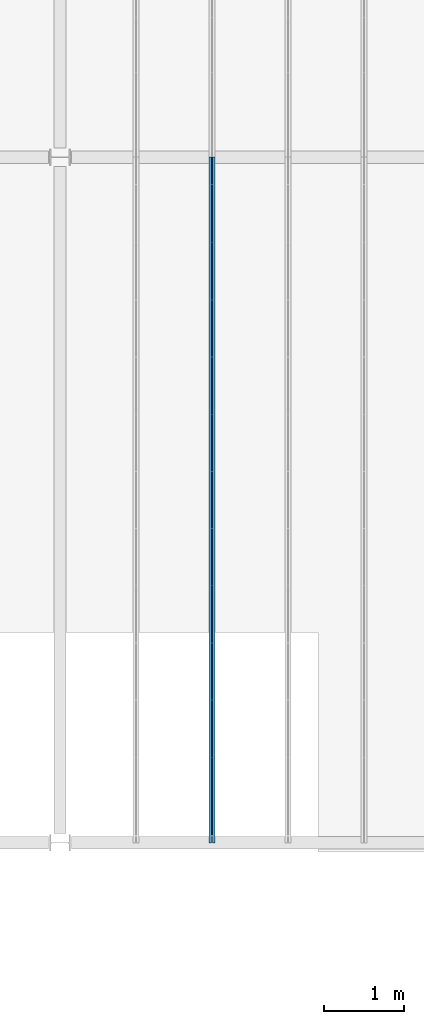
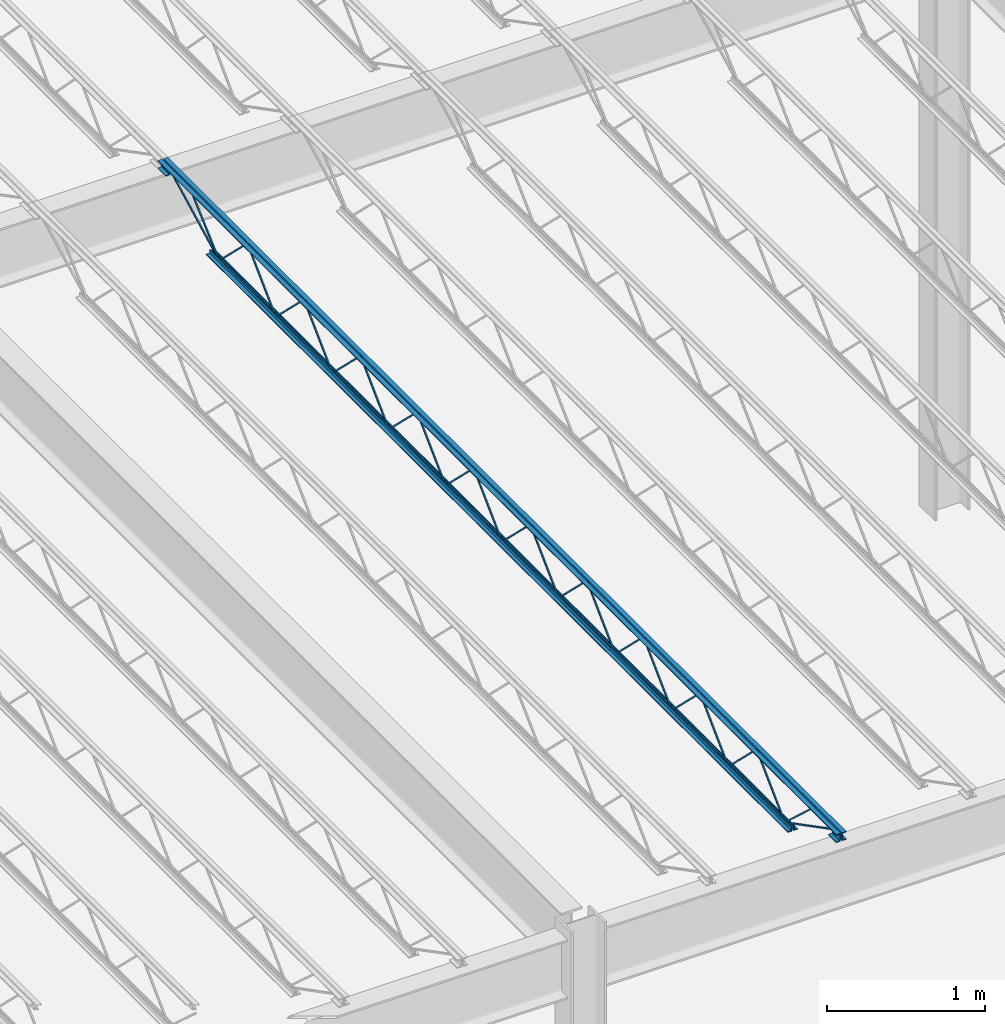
# One storey, part 58 of 119: 1 beam.
"""IFC2X3 building model written with IfcOpenShell, lengths in metres."""

from ifc_helpers import new_model, entity, si_unit, converted_unit, frame, origin, place, context, project, spatial, face_set, surface_model, element, save


model = new_model("IFC2X3")

# Units and contexts
model_context = context("Model", 3, precision=1e-09, world=origin())
plan_context = context("Plan", 3, precision=1e-09, world=origin())
ifc_project = project(units=[si_unit("LENGTHUNIT", "METRE"), si_unit("AREAUNIT", "SQUARE_METRE"), si_unit("VOLUMEUNIT", "CUBIC_METRE"), converted_unit("PLANEANGLEUNIT", "DEGREE", entity("IfcRatioMeasure", 0.01745329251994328), si_unit("PLANEANGLEUNIT", "RADIAN"), dimensions=[0, 0, 0, 0, 0, 0, 0]), si_unit("TIMEUNIT", "SECOND")], contexts=[model_context, plan_context])

# Site, building, storey
site_placement = place(None, origin())
site = spatial("IfcSite", under=ifc_project, at=site_placement, Name="Default", CompositionType="ELEMENT")
building_placement = place(site_placement, origin())
building = spatial("IfcBuilding", under=site, at=building_placement, CompositionType="ELEMENT")
storey_placement = place(building_placement, frame((0.0, 0.0, 4.570000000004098)))
storey = spatial("IfcBuildingStorey", under=building, at=storey_placement, Name="Second Floor", CompositionType="ELEMENT", Elevation=4.570000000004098)

# Beam
beam_placement = place(storey_placement, frame((-13.01673124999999, 10.03999999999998, 4.323999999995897), z_axis=(0.0, 0.0, 1.0), x_axis=(-1.0, 0.0, 0.0)))
element("IfcBeam", 1, at=beam_placement, inside=storey, Name="M_K-Series Bar Joist-Rod Web:14K1:14K1", ObjectType="M_K-Series Bar Joist-Rod Web:14K1", context=model_context, shape_type="SurfaceModel", body=[
    surface_model("IfcFaceBasedSurfaceModel", [(-0.03200000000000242, -2.141200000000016, 0.01110000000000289), (-0.04150000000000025, -2.141200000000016, 0.01110000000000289), (-0.04150000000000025, -2.141200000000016, 0.001600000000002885), (-0.03200000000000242, -2.141200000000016, 0.001600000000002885), (-0.04150000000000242, -2.139961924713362, 0.01110000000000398), (-0.03200000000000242, -2.139961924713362, 0.01110000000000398), (-0.04150000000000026, -2.136088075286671, 0.001600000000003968), (-0.04150000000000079, -1.785138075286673, 0.3449000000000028), (-0.04150000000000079, -1.782661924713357, 0.3449000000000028), (-0.04150000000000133, -1.431711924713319, 0.001600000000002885), (-0.04150000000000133, -1.426600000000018, 0.001600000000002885), (-0.04149999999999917, -1.426600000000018, 0.01110000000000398), (-0.04150000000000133, -1.427838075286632, 0.01110000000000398), (-0.0415000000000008, -1.77878807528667, 0.3544000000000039), (-0.04150000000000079, -1.78901192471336, 0.3544000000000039), (-0.03200000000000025, -2.136088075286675, 0.001600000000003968), (-0.03200000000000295, -1.785138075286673, 0.3449000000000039), (-0.03200000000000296, -1.782661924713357, 0.3449000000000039), (-0.03200000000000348, -1.431711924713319, 0.001600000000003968), (-0.0320000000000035, -1.426600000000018, 0.001600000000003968), (-0.0320000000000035, -1.426600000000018, 0.01110000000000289), (-0.03200000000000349, -1.427838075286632, 0.01110000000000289), (-0.03200000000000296, -1.77878807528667, 0.3544000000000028), (-0.03200000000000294, -1.78901192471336, 0.3544000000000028), (-0.03200000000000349, -2.855800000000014, 0.01110000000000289), (-0.04150000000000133, -2.855800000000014, 0.01110000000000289), (-0.04150000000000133, -2.855800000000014, 0.001600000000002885), (-0.03200000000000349, -2.855800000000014, 0.001600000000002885), (-0.0415000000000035, -2.854561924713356, 0.01110000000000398), (-0.0320000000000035, -2.854561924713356, 0.01110000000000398), (-0.04150000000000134, -2.850688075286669, 0.001600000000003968), (-0.04150000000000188, -2.499738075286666, 0.3449000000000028), (-0.04150000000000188, -2.497261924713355, 0.3449000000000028), (-0.04150000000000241, -2.146311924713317, 0.001600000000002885), (-0.04150000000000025, -2.141200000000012, 0.001600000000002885), (-0.04150000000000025, -2.141200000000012, 0.01110000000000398), (-0.04150000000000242, -2.14243807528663, 0.01110000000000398), (-0.04150000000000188, -2.493388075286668, 0.3544000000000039), (-0.04150000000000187, -2.503611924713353, 0.3544000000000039), (-0.03200000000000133, -2.850688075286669, 0.001600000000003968), (-0.03200000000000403, -2.499738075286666, 0.3449000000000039), (-0.03200000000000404, -2.497261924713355, 0.3449000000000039), (-0.03200000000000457, -2.146311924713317, 0.001600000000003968), (-0.03200000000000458, -2.141200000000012, 0.001600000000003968), (-0.03200000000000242, -2.141200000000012, 0.01110000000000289), (-0.03200000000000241, -2.14243807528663, 0.01110000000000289), (-0.03200000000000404, -2.493388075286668, 0.3544000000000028), (-0.03200000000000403, -2.503611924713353, 0.3544000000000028), (-0.03200000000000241, -3.570400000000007, 0.01110000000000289), (-0.04150000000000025, -3.570400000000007, 0.01110000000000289), (-0.04150000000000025, -3.570400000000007, 0.001600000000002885), (-0.03200000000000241, -3.570400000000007, 0.001600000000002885), (-0.04150000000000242, -3.569161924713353, 0.01110000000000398), (-0.03200000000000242, -3.569161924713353, 0.01110000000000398), (-0.04150000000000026, -3.565288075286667, 0.001600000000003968), (-0.04150000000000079, -3.214338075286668, 0.3449000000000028), (-0.04150000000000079, -3.211861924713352, 0.3449000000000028), (-0.04150000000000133, -2.860911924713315, 0.001600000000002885), (-0.04150000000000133, -2.855800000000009, 0.001600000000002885), (-0.04149999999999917, -2.855800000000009, 0.01110000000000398), (-0.04150000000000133, -2.857038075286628, 0.01110000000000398), (-0.0415000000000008, -3.207988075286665, 0.3544000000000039), (-0.04150000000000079, -3.218211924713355, 0.3544000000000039), (-0.03200000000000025, -3.565288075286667, 0.001600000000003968), (-0.03200000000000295, -3.214338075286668, 0.3449000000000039), (-0.03200000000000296, -3.211861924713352, 0.3449000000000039), (-0.03200000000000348, -2.860911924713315, 0.001600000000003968), (-0.03200000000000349, -2.855800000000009, 0.001600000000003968), (-0.03200000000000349, -2.855800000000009, 0.01110000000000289), (-0.03200000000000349, -2.857038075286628, 0.01110000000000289), (-0.03200000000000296, -3.207988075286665, 0.3544000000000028), (-0.03200000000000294, -3.218211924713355, 0.3544000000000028), (-0.03200000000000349, -4.285000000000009, 0.01110000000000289), (-0.04150000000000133, -4.285000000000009, 0.01110000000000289), (-0.04150000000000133, -4.285000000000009, 0.001600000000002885), (-0.03200000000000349, -4.285000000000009, 0.001600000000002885), (-0.0415000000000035, -4.283761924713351, 0.01110000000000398), (-0.0320000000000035, -4.283761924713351, 0.01110000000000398), (-0.04150000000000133, -4.279888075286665, 0.001600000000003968), (-0.04150000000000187, -3.928938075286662, 0.3449000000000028), (-0.04150000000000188, -3.92646192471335, 0.3449000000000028), (-0.04150000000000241, -3.575511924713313, 0.001600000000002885), (-0.04150000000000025, -3.570400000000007, 0.01110000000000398), (-0.04150000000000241, -3.571638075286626, 0.01110000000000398), (-0.04150000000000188, -3.922588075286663, 0.3544000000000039), (-0.04150000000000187, -3.932811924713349, 0.3544000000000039), (-0.03200000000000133, -4.279888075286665, 0.001600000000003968), (-0.03200000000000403, -3.928938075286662, 0.3449000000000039), (-0.03200000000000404, -3.92646192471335, 0.3449000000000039), (-0.03200000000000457, -3.575511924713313, 0.001600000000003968), (-0.03200000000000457, -3.570400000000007, 0.001600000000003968), (-0.03200000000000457, -3.571638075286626, 0.01110000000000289), (-0.03200000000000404, -3.922588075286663, 0.3544000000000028), (-0.03200000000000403, -3.932811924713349, 0.3544000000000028), (-0.03200000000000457, -4.999600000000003, 0.01110000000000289), (-0.04150000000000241, -4.999600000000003, 0.01110000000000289), (-0.04150000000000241, -4.999600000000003, 0.001600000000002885), (-0.03200000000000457, -4.999600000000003, 0.001600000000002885), (-0.04150000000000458, -4.998361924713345, 0.01110000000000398), (-0.03200000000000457, -4.998361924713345, 0.01110000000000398), (-0.04150000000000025, -4.994488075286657, 0.001600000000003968), (-0.04150000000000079, -4.643538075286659, 0.3449000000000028), (-0.04150000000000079, -4.641061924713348, 0.3449000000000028), (-0.04150000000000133, -4.290111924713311, 0.001600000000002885), (-0.04150000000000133, -4.285000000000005, 0.001600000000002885), (-0.04150000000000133, -4.285, 0.01110000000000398), (-0.04150000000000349, -4.286238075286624, 0.01110000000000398), (-0.04150000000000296, -4.637188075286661, 0.3544000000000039), (-0.04150000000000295, -4.647411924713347, 0.3544000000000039), (-0.03200000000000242, -4.994488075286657, 0.001600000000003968), (-0.03200000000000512, -4.643538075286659, 0.3449000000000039), (-0.03200000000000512, -4.641061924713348, 0.3449000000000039), (-0.03200000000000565, -4.290111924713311, 0.001600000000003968), (-0.03200000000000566, -4.285, 0.001600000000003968), (-0.03200000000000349, -4.285000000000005, 0.01110000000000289), (-0.03200000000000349, -4.286238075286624, 0.01110000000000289), (-0.03200000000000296, -4.637188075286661, 0.3544000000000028), (-0.03200000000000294, -4.647411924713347, 0.3544000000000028), (-0.03200000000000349, -5.714200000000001, 0.01110000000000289), (-0.04150000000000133, -5.714200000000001, 0.01110000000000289), (-0.04150000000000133, -5.714200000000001, 0.001600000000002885), (-0.03200000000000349, -5.714200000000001, 0.001600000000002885), (-0.0415000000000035, -5.712961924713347, 0.01110000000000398), (-0.03200000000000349, -5.712961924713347, 0.01110000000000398), (-0.04150000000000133, -5.70908807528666, 0.001600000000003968), (-0.04150000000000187, -5.358138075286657, 0.3449000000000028), (-0.04150000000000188, -5.355661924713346, 0.3449000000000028), (-0.04150000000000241, -5.004711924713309, 0.001600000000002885), (-0.04150000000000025, -4.999600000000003, 0.01110000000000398), (-0.04150000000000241, -5.000838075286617, 0.01110000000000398), (-0.04150000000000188, -5.351788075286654, 0.3544000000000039), (-0.04150000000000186, -5.362011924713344, 0.3544000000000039), (-0.03200000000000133, -5.70908807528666, 0.001600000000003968), (-0.03200000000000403, -5.358138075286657, 0.3449000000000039), (-0.03200000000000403, -5.355661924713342, 0.3449000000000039), (-0.03200000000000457, -5.004711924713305, 0.001600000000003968), (-0.03200000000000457, -4.999600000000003, 0.001600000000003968), (-0.03200000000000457, -5.000838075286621, 0.01110000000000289), (-0.03200000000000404, -5.351788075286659, 0.3544000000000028), (-0.03200000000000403, -5.362011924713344, 0.3544000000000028), (-0.03200000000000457, -6.428799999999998, 0.01110000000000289), (-0.04150000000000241, -6.428799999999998, 0.01110000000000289), (-0.04150000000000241, -6.428799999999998, 0.001600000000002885), (-0.03200000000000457, -6.428799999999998, 0.001600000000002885), (-0.04150000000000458, -6.42756192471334, 0.01110000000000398), (-0.03200000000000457, -6.42756192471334, 0.01110000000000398), (-0.04150000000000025, -6.423688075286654, 0.001600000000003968), (-0.04150000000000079, -6.072738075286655, 0.3449000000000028), (-0.04150000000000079, -6.070261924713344, 0.3449000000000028), (-0.04150000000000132, -5.719311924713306, 0.001600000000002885), (-0.04150000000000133, -5.714199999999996, 0.001600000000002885), (-0.04150000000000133, -5.714199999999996, 0.01110000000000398), (-0.04150000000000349, -5.715438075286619, 0.01110000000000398), (-0.04150000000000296, -6.066388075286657, 0.3544000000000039), (-0.04150000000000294, -6.076611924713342, 0.3544000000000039), (-0.03200000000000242, -6.423688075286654, 0.001600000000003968), (-0.03200000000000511, -6.072738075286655, 0.3449000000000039), (-0.03200000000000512, -6.070261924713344, 0.3449000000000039), (-0.03200000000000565, -5.719311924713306, 0.001600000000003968), (-0.03200000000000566, -5.714199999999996, 0.001600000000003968), (-0.03200000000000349, -5.714199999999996, 0.01110000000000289), (-0.03200000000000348, -5.715438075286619, 0.01110000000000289), (-0.03200000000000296, -6.066388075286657, 0.3544000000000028), (-0.03200000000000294, -6.076611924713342, 0.3544000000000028), (-0.03200000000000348, -7.143399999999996, 0.01110000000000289), (-0.04150000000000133, -7.143399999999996, 0.01110000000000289), (-0.04150000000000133, -7.143399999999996, 0.001600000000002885), (-0.03200000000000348, -7.143399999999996, 0.001600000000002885), (-0.04150000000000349, -7.142161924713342, 0.01110000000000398), (-0.03200000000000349, -7.142161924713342, 0.01110000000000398), (-0.04150000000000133, -7.138288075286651, 0.001600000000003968), (-0.04150000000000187, -6.787338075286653, 0.3449000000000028), (-0.04150000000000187, -6.784861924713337, 0.3449000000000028), (-0.0415000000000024, -6.4339119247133, 0.001600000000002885), (-0.04150000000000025, -6.428799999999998, 0.01110000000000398), (-0.04150000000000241, -6.430038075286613, 0.01110000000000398), (-0.04150000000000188, -6.780988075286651, 0.3544000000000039), (-0.04150000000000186, -6.79121192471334, 0.3544000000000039), (-0.03200000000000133, -7.138288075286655, 0.001600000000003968), (-0.03200000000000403, -6.787338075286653, 0.3449000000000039), (-0.03200000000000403, -6.784861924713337, 0.3449000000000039), (-0.03200000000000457, -6.4339119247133, 0.001600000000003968), (-0.03200000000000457, -6.428799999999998, 0.001600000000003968), (-0.03200000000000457, -6.430038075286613, 0.01110000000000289), (-0.03200000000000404, -6.780988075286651, 0.3544000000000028), (-0.03200000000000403, -6.79121192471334, 0.3544000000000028), (-0.03200000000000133, -1.426600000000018, 0.01109999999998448), (-0.04149999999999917, -1.426600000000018, 0.01109999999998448), (-0.04149999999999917, -1.426600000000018, 0.001599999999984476), (-0.03200000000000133, -1.426600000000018, 0.001599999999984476), (-0.04150000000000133, -1.42536192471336, 0.01109999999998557), (-0.03200000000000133, -1.42536192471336, 0.01109999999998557), (-0.04150000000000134, -1.421488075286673, 0.001599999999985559), (-0.04150000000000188, -1.07053807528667, 0.3448999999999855), (-0.04150000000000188, -1.068061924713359, 0.3448999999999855), (-0.04150000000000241, -0.7171119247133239, 0.001599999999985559), (-0.04149999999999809, -0.712000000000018, 0.001599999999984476), (-0.04150000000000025, -0.712000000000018, 0.01109999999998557), (-0.04150000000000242, -0.7132380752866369, 0.01109999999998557), (-0.04150000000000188, -1.064188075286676, 0.3543999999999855), (-0.04150000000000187, -1.074411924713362, 0.3543999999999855), (-0.03200000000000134, -1.421488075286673, 0.001599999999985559), (-0.03200000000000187, -1.070538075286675, 0.3448999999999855), (-0.03200000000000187, -1.068061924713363, 0.3448999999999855), (-0.0320000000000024, -0.7171119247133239, 0.001599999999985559), (-0.03200000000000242, -0.712000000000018, 0.001599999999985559), (-0.03200000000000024, -0.712000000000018, 0.01109999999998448), (-0.03200000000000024, -0.7132380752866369, 0.01109999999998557), (-0.03200000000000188, -1.064188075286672, 0.3543999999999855), (-0.03200000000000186, -1.074411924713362, 0.3543999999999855), (-0.03200000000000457, -7.857999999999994, 0.01110000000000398), (-0.04150000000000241, -7.857999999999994, 0.01110000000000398), (-0.04150000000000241, -7.857999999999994, 0.001600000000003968), (-0.03200000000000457, -7.857999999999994, 0.001600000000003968), (-0.04150000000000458, -7.856761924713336, 0.01110000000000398), (-0.03200000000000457, -7.856761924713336, 0.01110000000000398), (-0.04150000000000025, -7.852888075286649, 0.001600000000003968), (-0.04150000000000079, -7.501938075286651, 0.3449000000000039), (-0.04150000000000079, -7.499461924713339, 0.3449000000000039), (-0.04150000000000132, -7.148511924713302, 0.001600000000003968), (-0.04150000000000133, -7.143399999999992, 0.001600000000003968), (-0.04150000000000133, -7.143399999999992, 0.01110000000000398), (-0.04150000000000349, -7.144638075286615, 0.01110000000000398), (-0.04150000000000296, -7.495588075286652, 0.3544000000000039), (-0.04150000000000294, -7.505811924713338, 0.3544000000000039), (-0.03200000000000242, -7.852888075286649, 0.001600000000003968), (-0.03200000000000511, -7.501938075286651, 0.3449000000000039), (-0.03200000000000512, -7.499461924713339, 0.3449000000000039), (-0.03200000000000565, -7.148511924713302, 0.001600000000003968), (-0.03200000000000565, -7.143399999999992, 0.001600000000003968), (-0.03200000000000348, -7.143399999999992, 0.01110000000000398), (-0.03200000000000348, -7.144638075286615, 0.01110000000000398), (-0.03200000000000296, -7.495588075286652, 0.3544000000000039), (-0.03200000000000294, -7.505811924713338, 0.3544000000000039), (-0.0415000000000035, 0.0, 0.3559999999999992), (-0.07350000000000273, 0.0, 0.3559999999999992), (-0.07350000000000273, 0.0, 0.3494999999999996), (-0.04800000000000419, 0.0, 0.3494999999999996), (-0.04800000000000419, 0.0, 0.3239999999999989), (-0.0415000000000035, 0.0, 0.3239999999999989), (-0.03200000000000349, 0.0, 0.3559999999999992), (-0.03200000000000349, 0.0, 0.3239999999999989), (-0.0255000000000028, 0.0, 0.3239999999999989), (-0.0255000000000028, 0.0, 0.3494999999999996), (0.0, 0.0, 0.3494999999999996), (0.0, 0.0, 0.3559999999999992), (-0.0415000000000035, -8.569999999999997, 0.3559999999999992), (-0.07350000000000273, -8.569999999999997, 0.3559999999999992), (-0.07350000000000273, -8.569999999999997, 0.3494999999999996), (-0.04800000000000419, -8.569999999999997, 0.3494999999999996), (-0.04800000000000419, -8.569999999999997, 0.3239999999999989), (-0.0415000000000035, -8.569999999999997, 0.3239999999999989), (-0.03200000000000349, -8.569999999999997, 0.3559999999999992), (-0.03200000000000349, -8.569999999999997, 0.3239999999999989), (-0.0255000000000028, -8.569999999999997, 0.3239999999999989), (-0.0255000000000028, -8.569999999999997, 0.3494999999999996), (0.0, -8.569999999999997, 0.3494999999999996), (0.0, -8.569999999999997, 0.3559999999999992), (-0.03200000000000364, -8.470000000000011, 0.2924999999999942), (0.0, -8.470000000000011, 0.2924999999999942), (0.0, -8.470000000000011, 0.2989999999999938), (-0.02550000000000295, -8.470000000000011, 0.2989999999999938), (-0.02550000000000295, -8.470000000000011, 0.3239999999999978), (-0.03200000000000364, -8.470000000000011, 0.3239999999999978), (-0.07350000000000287, -8.470000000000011, 0.2924999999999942), (-0.04150000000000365, -8.470000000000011, 0.2924999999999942), (-0.04150000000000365, -8.470000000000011, 0.3239999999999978), (-0.04800000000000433, -8.470000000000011, 0.3239999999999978), (-0.04800000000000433, -8.470000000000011, 0.2989999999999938), (-0.07350000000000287, -8.470000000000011, 0.2989999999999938), (-0.03200000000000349, -8.569999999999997, 0.2924999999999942), (0.0, -8.569999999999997, 0.2924999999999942), (0.0, -8.569999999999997, 0.2989999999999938), (-0.0255000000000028, -8.569999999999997, 0.2989999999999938), (-0.0255000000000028, -8.569999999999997, 0.3239999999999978), (-0.03200000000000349, -8.569999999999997, 0.3239999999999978), (-0.07350000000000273, -8.569999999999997, 0.2924999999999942), (-0.0415000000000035, -8.569999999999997, 0.2924999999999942), (-0.0415000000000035, -8.569999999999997, 0.3239999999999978), (-0.04800000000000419, -8.569999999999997, 0.3239999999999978), (-0.04800000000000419, -8.569999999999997, 0.2989999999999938), (-0.07350000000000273, -8.569999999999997, 0.2989999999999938), (-0.0415000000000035, 0.0, 0.2924999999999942), (-0.0415000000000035, 0.0, 0.3239999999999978), (-0.04800000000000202, 0.0, 0.3239999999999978), (-0.04800000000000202, 0.0, 0.2989999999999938), (-0.07350000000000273, 0.0, 0.2989999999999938), (-0.07350000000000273, 0.0, 0.2924999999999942), (-0.03200000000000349, 0.0, 0.2924999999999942), (0.0, 0.0, 0.2924999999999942), (0.0, 0.0, 0.2989999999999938), (-0.0255000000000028, 0.0, 0.2989999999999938), (-0.0255000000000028, 0.0, 0.3239999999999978), (-0.03200000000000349, 0.0, 0.3239999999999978), (-0.04150000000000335, -0.09999999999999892, 0.2924999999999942), (-0.04150000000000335, -0.09999999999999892, 0.3239999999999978), (-0.04800000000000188, -0.09999999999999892, 0.3239999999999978), (-0.04800000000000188, -0.09999999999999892, 0.2989999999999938), (-0.07350000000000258, -0.09999999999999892, 0.2989999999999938), (-0.07350000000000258, -0.09999999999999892, 0.2924999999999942), (-0.03200000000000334, -0.09999999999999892, 0.2924999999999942), (0.0, -0.09999999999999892, 0.2924999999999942), (0.0, -0.09999999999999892, 0.2989999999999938), (-0.02550000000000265, -0.09999999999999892, 0.2989999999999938), (-0.02550000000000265, -0.09999999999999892, 0.3239999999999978), (-0.03200000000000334, -0.09999999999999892, 0.3239999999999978), (-0.04150000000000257, -0.6119999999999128, 0.0), (-0.04150000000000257, -0.6119999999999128, 0.03199999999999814), (-0.04800000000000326, -0.6119999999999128, 0.03199999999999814), (-0.04800000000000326, -0.6119999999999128, 0.006499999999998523), (-0.0735000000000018, -0.6119999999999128, 0.006499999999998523), (-0.0735000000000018, -0.6119999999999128, 0.0), (-0.03200000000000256, -0.6119999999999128, 0.0), (0.0, -0.6119999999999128, 0.0), (0.0, -0.6119999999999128, 0.006499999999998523), (-0.02550000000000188, -0.6119999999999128, 0.006499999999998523), (-0.02550000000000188, -0.6119999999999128, 0.03199999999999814), (-0.03200000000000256, -0.6119999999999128, 0.03199999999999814), (-0.04150000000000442, -7.957999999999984, 0.0), (-0.04150000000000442, -7.957999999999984, 0.03199999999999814), (-0.04800000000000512, -7.957999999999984, 0.03199999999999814), (-0.04800000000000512, -7.957999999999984, 0.006499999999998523), (-0.07350000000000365, -7.957999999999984, 0.006499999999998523), (-0.07350000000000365, -7.957999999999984, 0.0), (-0.03200000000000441, -7.957999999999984, 0.0), (0.0, -7.957999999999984, 0.0), (0.0, -7.957999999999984, 0.006499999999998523), (-0.02550000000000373, -7.957999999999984, 0.006499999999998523), (-0.02550000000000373, -7.957999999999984, 0.03199999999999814), (-0.03200000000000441, -7.957999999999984, 0.03199999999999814), (-0.03200000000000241, -7.855811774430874, 0.01056594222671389), (-0.04150000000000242, -7.855811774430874, 0.01056594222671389), (-0.04150000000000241, -7.860188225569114, 0.002134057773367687), (-0.03200000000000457, -7.860188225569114, 0.00213405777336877), (-0.03199999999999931, -8.468840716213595, 0.3287499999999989), (-0.03199999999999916, -8.569999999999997, 0.3287499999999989), (-0.03200000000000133, -8.569999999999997, 0.3192499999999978), (-0.03200000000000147, -8.471159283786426, 0.3192499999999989), (-0.04150000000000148, -8.471159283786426, 0.3192499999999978), (-0.04150000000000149, -8.468840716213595, 0.3287499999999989), (-0.04150000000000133, -8.569999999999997, 0.3287499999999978), (-0.04150000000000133, -8.569999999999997, 0.3192499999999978), (-0.032000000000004, -8.23525714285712, 0.3417000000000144), (-0.04150000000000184, -8.23525714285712, 0.3417000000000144), (-0.04150000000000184, -8.23525714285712, 0.3322000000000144), (-0.032000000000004, -8.23525714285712, 0.3322000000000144), (-0.04150000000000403, -8.22072410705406, 0.3417000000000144), (-0.03200000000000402, -8.220724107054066, 0.3417000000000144), (-0.04150000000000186, -8.224390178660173, 0.3322000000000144), (-0.04150000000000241, -7.861190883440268, 0.002831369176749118), (-0.04150000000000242, -7.854809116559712, 0.009868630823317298), (-0.03200000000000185, -8.224390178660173, 0.3322000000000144), (-0.03200000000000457, -7.861190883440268, 0.002831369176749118), (-0.03200000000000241, -7.854809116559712, 0.009868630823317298), (-0.03200000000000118, -0.09781177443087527, 0.3197840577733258), (-0.03200000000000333, -0.1021882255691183, 0.328215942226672), (-0.04150000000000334, -0.1021882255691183, 0.328215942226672), (-0.04150000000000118, -0.09781177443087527, 0.3197840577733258), (-0.03200000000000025, -0.7098117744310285, 0.002134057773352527), (-0.03200000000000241, -0.7141882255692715, 0.01056594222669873), (-0.04150000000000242, -0.7141882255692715, 0.01056594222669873), (-0.04150000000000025, -0.7098117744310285, 0.002134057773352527), (-0.03200000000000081, -0.3369634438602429, 0.3461600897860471), (-0.03200000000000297, -0.3434079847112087, 0.3531399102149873), (-0.04150000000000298, -0.3434079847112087, 0.3531399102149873), (-0.04150000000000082, -0.3369634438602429, 0.3461600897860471), (-0.03200000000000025, -0.7087777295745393, 0.00286008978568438), (-0.03200000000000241, -0.7152222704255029, 0.009839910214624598), (-0.04150000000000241, -0.7152222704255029, 0.009839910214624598), (-0.04150000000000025, -0.7087777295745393, 0.00286008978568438)], [face_set([[[0, 1, 2, 3]], [[1, 4, 5, 0]], [[2, 6, 7, 8, 9, 10, 11, 12, 13, 14, 4, 1]], [[3, 2, 6, 15]], [[0, 3, 15, 16, 17, 18, 19, 20, 21, 22, 23, 5]], [[4, 5, 23, 14]], [[15, 16, 7, 6]], [[14, 13, 22, 23]], [[16, 7, 8, 17]], [[13, 12, 21, 22]], [[17, 8, 9, 18]], [[20, 11, 10, 19]], [[12, 11, 20, 21]], [[18, 9, 10, 19]]]), face_set([[[24, 25, 26, 27]], [[25, 28, 29, 24]], [[26, 30, 31, 32, 33, 34, 35, 36, 37, 38, 28, 25]], [[27, 26, 30, 39]], [[24, 27, 39, 40, 41, 42, 43, 44, 45, 46, 47, 29]], [[28, 29, 47, 38]], [[39, 40, 31, 30]], [[38, 37, 46, 47]], [[40, 31, 32, 41]], [[37, 36, 45, 46]], [[41, 32, 33, 42]], [[44, 35, 34, 43]], [[36, 35, 44, 45]], [[42, 33, 34, 43]]]), face_set([[[48, 49, 50, 51]], [[49, 52, 53, 48]], [[50, 54, 55, 56, 57, 58, 59, 60, 61, 62, 52, 49]], [[51, 50, 54, 63]], [[48, 51, 63, 64, 65, 66, 67, 68, 69, 70, 71, 53]], [[52, 53, 71, 62]], [[63, 64, 55, 54]], [[62, 61, 70, 71]], [[64, 55, 56, 65]], [[61, 60, 69, 70]], [[65, 56, 57, 66]], [[68, 59, 58, 67]], [[60, 59, 68, 69]], [[66, 57, 58, 67]]]), face_set([[[72, 73, 74, 75]], [[73, 76, 77, 72]], [[74, 78, 79, 80, 81, 50, 82, 83, 84, 85, 76, 73]], [[75, 74, 78, 86]], [[72, 75, 86, 87, 88, 89, 90, 48, 91, 92, 93, 77]], [[76, 77, 93, 85]], [[86, 87, 79, 78]], [[85, 84, 92, 93]], [[87, 79, 80, 88]], [[84, 83, 91, 92]], [[88, 80, 81, 89]], [[48, 82, 50, 90]], [[83, 82, 48, 91]], [[89, 81, 50, 90]]]), face_set([[[94, 95, 96, 97]], [[95, 98, 99, 94]], [[96, 100, 101, 102, 103, 104, 105, 106, 107, 108, 98, 95]], [[97, 96, 100, 109]], [[94, 97, 109, 110, 111, 112, 113, 114, 115, 116, 117, 99]], [[98, 99, 117, 108]], [[109, 110, 101, 100]], [[108, 107, 116, 117]], [[110, 101, 102, 111]], [[107, 106, 115, 116]], [[111, 102, 103, 112]], [[114, 105, 104, 113]], [[106, 105, 114, 115]], [[112, 103, 104, 113]]]), face_set([[[118, 119, 120, 121]], [[119, 122, 123, 118]], [[120, 124, 125, 126, 127, 96, 128, 129, 130, 131, 122, 119]], [[121, 120, 124, 132]], [[118, 121, 132, 133, 134, 135, 136, 94, 137, 138, 139, 123]], [[122, 123, 139, 131]], [[132, 133, 125, 124]], [[131, 130, 138, 139]], [[133, 125, 126, 134]], [[130, 129, 137, 138]], [[134, 126, 127, 135]], [[94, 128, 96, 136]], [[129, 128, 94, 137]], [[135, 127, 96, 136]]]), face_set([[[140, 141, 142, 143]], [[141, 144, 145, 140]], [[142, 146, 147, 148, 149, 150, 151, 152, 153, 154, 144, 141]], [[143, 142, 146, 155]], [[140, 143, 155, 156, 157, 158, 159, 160, 161, 162, 163, 145]], [[144, 145, 163, 154]], [[155, 156, 147, 146]], [[154, 153, 162, 163]], [[156, 147, 148, 157]], [[153, 152, 161, 162]], [[157, 148, 149, 158]], [[160, 151, 150, 159]], [[152, 151, 160, 161]], [[158, 149, 150, 159]]]), face_set([[[164, 165, 166, 167]], [[165, 168, 169, 164]], [[166, 170, 171, 172, 173, 142, 174, 175, 176, 177, 168, 165]], [[167, 166, 170, 178]], [[164, 167, 178, 179, 180, 181, 182, 140, 183, 184, 185, 169]], [[168, 169, 185, 177]], [[178, 179, 171, 170]], [[177, 176, 184, 185]], [[179, 171, 172, 180]], [[176, 175, 183, 184]], [[180, 172, 173, 181]], [[140, 174, 142, 182]], [[175, 174, 140, 183]], [[181, 173, 142, 182]]]), face_set([[[186, 187, 188, 189]], [[187, 190, 191, 186]], [[188, 192, 193, 194, 195, 196, 197, 198, 199, 200, 190, 187]], [[189, 188, 192, 201]], [[186, 189, 201, 202, 203, 204, 205, 206, 207, 208, 209, 191]], [[190, 191, 209, 200]], [[201, 202, 193, 192]], [[200, 199, 208, 209]], [[202, 193, 194, 203]], [[199, 198, 207, 208]], [[203, 194, 195, 204]], [[206, 197, 196, 205]], [[198, 197, 206, 207]], [[204, 195, 196, 205]]]), face_set([[[210, 211, 212, 213]], [[211, 214, 215, 210]], [[212, 216, 217, 218, 219, 220, 221, 222, 223, 224, 214, 211]], [[213, 212, 216, 225]], [[210, 213, 225, 226, 227, 228, 229, 230, 231, 232, 233, 215]], [[214, 215, 233, 224]], [[225, 226, 217, 216]], [[224, 223, 232, 233]], [[226, 217, 218, 227]], [[223, 222, 231, 232]], [[227, 218, 219, 228]], [[230, 221, 220, 229]], [[222, 221, 230, 231]], [[228, 219, 220, 229]]]), face_set([[[234, 235, 236, 237, 238, 239]], [[240, 241, 242, 243, 244, 245]], [[246, 247, 248, 249, 250, 251]], [[252, 253, 254, 255, 256, 257]], [[239, 234, 246, 251]], [[238, 239, 251, 250]], [[237, 249, 250, 238]], [[236, 237, 249, 248]], [[235, 247, 248, 236]], [[234, 246, 247, 235]], [[245, 257, 252, 240]], [[244, 245, 257, 256]], [[243, 244, 256, 255]], [[242, 243, 255, 254]], [[241, 242, 254, 253]], [[240, 252, 253, 241]]]), face_set([[[258, 259, 260, 261, 262, 263]], [[264, 265, 266, 267, 268, 269]], [[270, 271, 272, 273, 274, 275]], [[276, 277, 278, 279, 280, 281]], [[263, 275, 270, 258]], [[262, 274, 275, 263]], [[261, 262, 274, 273]], [[260, 272, 273, 261]], [[259, 260, 272, 271]], [[258, 259, 271, 270]], [[269, 281, 276, 264]], [[268, 280, 281, 269]], [[267, 279, 280, 268]], [[266, 278, 279, 267]], [[265, 266, 278, 277]], [[264, 265, 277, 276]]]), face_set([[[282, 283, 284, 285, 286, 287]], [[288, 289, 290, 291, 292, 293]], [[294, 295, 296, 297, 298, 299]], [[300, 301, 302, 303, 304, 305]], [[287, 282, 294, 299]], [[286, 298, 299, 287]], [[285, 297, 298, 286]], [[284, 296, 297, 285]], [[283, 295, 296, 284]], [[282, 283, 295, 294]], [[293, 305, 300, 288]], [[292, 304, 305, 293]], [[291, 292, 304, 303]], [[290, 302, 303, 291]], [[289, 290, 302, 301]], [[288, 289, 301, 300]]]), face_set([[[306, 307, 308, 309, 310, 311]], [[312, 313, 314, 315, 316, 317]], [[318, 319, 320, 321, 322, 323]], [[324, 325, 326, 327, 328, 329]], [[311, 306, 318, 323]], [[310, 322, 323, 311]], [[309, 321, 322, 310]], [[308, 320, 321, 309]], [[307, 319, 320, 308]], [[306, 307, 319, 318]], [[317, 329, 324, 312]], [[316, 328, 329, 317]], [[315, 316, 328, 327]], [[314, 326, 327, 315]], [[313, 314, 326, 325]], [[312, 313, 325, 324]]]), face_set([[[330, 331, 332, 333]], [[333, 330, 334, 335, 336, 337]], [[332, 333, 337, 338]], [[331, 339, 340, 341, 338, 332]], [[330, 334, 339, 331]], [[335, 340, 341, 336]], [[338, 337, 336, 341]], [[334, 335, 340, 339]]]), face_set([[[342, 343, 344, 345]], [[343, 346, 347, 342]], [[344, 348, 349, 350, 346, 343]], [[345, 344, 348, 351]], [[342, 345, 351, 352, 353, 347]], [[353, 350, 349, 352]], [[346, 350, 353, 347]], [[351, 348, 349, 352]]]), face_set([[[354, 355, 356, 357]], [[358, 359, 360, 361]], [[357, 354, 358, 361]], [[356, 360, 361, 357]], [[355, 359, 360, 356]], [[354, 355, 359, 358]]]), face_set([[[362, 363, 364, 365]], [[366, 367, 368, 369]], [[365, 369, 366, 362]], [[364, 368, 369, 365]], [[363, 364, 368, 367]], [[362, 363, 367, 366]]])]),
])

save(model, "model.ifc")
